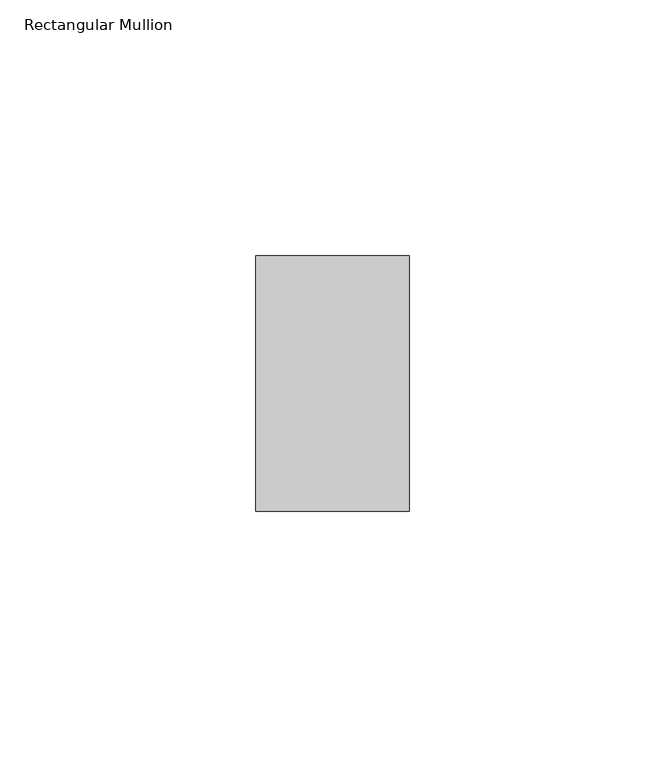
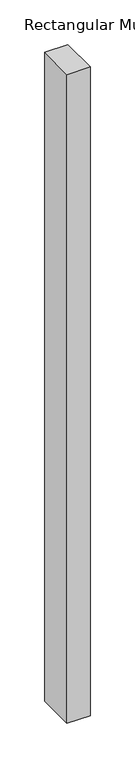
"""IFC4 building model written with IfcOpenShell, lengths in millimetres: member geometry, Rectangular Mullion : ARQ_TV_MULL_50x30mm."""

import ifcopenshell
import ifcopenshell.guid

model = None  # the IFC model being written
_history = None  # IfcOwnerHistory: only IFC2X3 demands one
_inside = {}  # id of a spatial element -> (the spatial element, [elements in it])
_under = {}  # id of a project, library or spatial element -> (it, [spatial elements below it])
_declared = {}  # id of a project -> (the project, [libraries it declares])
_typed = {}  # id of a type object -> (the type object, [elements of that type])
_made_of = {}  # id of a material, layer set ... -> (it, [elements and type objects made of it])


def new_model(schema):
    """Start an empty IFC model of exactly this schema.

    Asked for "IFC4X3", IfcOpenShell would pick the latest addendum, in which some entities
    have other attributes; the version numbers below select the first issue.
    IFC2X3 requires an IfcOwnerHistory on every rooted entity: one is made here for all.
    """
    global model, _history
    if schema == "IFC4X3":
        model = ifcopenshell.file(schema_version=(4, 3, 0, 0))
    else:
        model = ifcopenshell.file(schema=schema)
    _inside.clear()
    _under.clear()
    _declared.clear()
    _typed.clear()
    _made_of.clear()
    _history = None
    if model.schema == "IFC2X3":
        org = make("IfcOrganization", Name="unknown")
        user = make(
            "IfcPersonAndOrganization",
            ThePerson=make("IfcPerson", FamilyName="unknown"),
            TheOrganization=org,
        )
        app = make(
            "IfcApplication",
            ApplicationDeveloper=org,
            Version="unknown",
            ApplicationFullName="unknown",
            ApplicationIdentifier="unknown",
        )
        _history = make(
            "IfcOwnerHistory",
            OwningUser=user,
            OwningApplication=app,
            ChangeAction="ADDED",
            CreationDate=0,
        )
    return model


def make(cls, **values):
    """One entity of the class cls with the attributes given. An attribute that is None is left unset."""
    return model.create_entity(
        cls, **{name: value for name, value in values.items() if value is not None}
    )


def rooted(cls, **values):
    """An entity with a GlobalId (a new one), such as an element, a storey or a relation."""
    return make(cls, GlobalId=ifcopenshell.guid.new(), OwnerHistory=_history, **values)


def si_unit(unit_type, name, prefix=None):
    """IfcSIUnit, for example si_unit("LENGTHUNIT", "METRE", prefix="MILLI")."""
    return make("IfcSIUnit", UnitType=unit_type, Prefix=prefix, Name=name)


def assignment(units):
    """IfcUnitAssignment: the units of a project."""
    return None if units is None else make("IfcUnitAssignment", Units=units)


def point(xyz):
    """IfcCartesianPoint."""
    return None if xyz is None else make("IfcCartesianPoint", Coordinates=xyz)


def direction(xyz):
    """IfcDirection."""
    return None if xyz is None else make("IfcDirection", DirectionRatios=xyz)


def frame(location, z_axis=None, x_axis=None):
    """IfcAxis2Placement3D, a coordinate frame: its origin and axes. An axis left out is left unset."""
    return make(
        "IfcAxis2Placement3D",
        Location=point(location),
        Axis=direction(z_axis),
        RefDirection=direction(x_axis),
    )


def origin():
    """The frame at (0, 0, 0) with its axes left unset."""
    return frame((0.0, 0.0, 0.0))


def place(relative_to, where):
    """IfcLocalPlacement: puts the frame where relative to a parent placement (None: the world)."""
    return make(
        "IfcLocalPlacement", PlacementRelTo=relative_to, RelativePlacement=where
    )


def context(
    kind, dimensions, precision=None, world=None, true_north=None, identifier=None
):
    """IfcGeometricRepresentationContext, for example the 3D "Model" context."""
    return make(
        "IfcGeometricRepresentationContext",
        ContextIdentifier=identifier,
        ContextType=kind,
        CoordinateSpaceDimension=dimensions,
        Precision=precision,
        WorldCoordinateSystem=world,
        TrueNorth=true_north,
    )


def project(units=None, contexts=None):
    """IfcProject with its units and contexts."""
    return rooted(
        "IfcProject",
        Name="project",
        RepresentationContexts=contexts,
        UnitsInContext=assignment(units),
    )


def spatial(cls, under=None, at=None, **own):
    """A site, building, storey or space (cls), placed at a placement, below another one or the project."""
    s = rooted(cls, ObjectPlacement=at, **own)
    if under is not None:
        _under.setdefault(under.id(), (under, []))[1].append(s)
    return s


def polyline(points):
    """IfcPolyline through the points."""
    return make("IfcPolyline", Points=[point(p) for p in points])


def outline(outer, holes=None, kind="AREA"):
    """IfcArbitraryClosedProfileDef: a profile drawn as a closed curve; with holes, ...WithVoids."""
    if holes is None:
        return make("IfcArbitraryClosedProfileDef", ProfileType=kind, OuterCurve=outer)
    return make(
        "IfcArbitraryProfileDefWithVoids",
        ProfileType=kind,
        OuterCurve=outer,
        InnerCurves=holes,
    )


def extrude(swept, where, along, depth):
    """IfcExtrudedAreaSolid: the profile swept, set in the frame where, extruded along a direction by depth."""
    return make(
        "IfcExtrudedAreaSolid",
        SweptArea=swept,
        Position=where,
        ExtrudedDirection=direction(along),
        Depth=depth,
    )


def shape(context_of_items, identifier, shape_type, items):
    """IfcShapeRepresentation: the items that make up one representation, for example the "Body"."""
    return make(
        "IfcShapeRepresentation",
        ContextOfItems=context_of_items,
        RepresentationIdentifier=identifier,
        RepresentationType=shape_type,
        Items=items,
    )


def source(mapping_origin, context_of_items, identifier, shape_type, items):
    """IfcRepresentationMap: a shape defined once, which mapped items show again and again."""
    return make(
        "IfcRepresentationMap",
        MappingOrigin=mapping_origin,
        MappedRepresentation=shape(context_of_items, identifier, shape_type, items),
    )


def transform(
    local_origin,
    x_axis=None,
    y_axis=None,
    z_axis=None,
    scale=None,
    scale2=None,
    scale3=None,
    uniform=True,
):
    """IfcCartesianTransformationOperator3D, or its non-uniform kind. x_axis, y_axis, z_axis: its Axis1, 2, 3."""
    if uniform:
        return make(
            "IfcCartesianTransformationOperator3D",
            Axis1=direction(x_axis),
            Axis2=direction(y_axis),
            LocalOrigin=point(local_origin),
            Scale=scale,
            Axis3=direction(z_axis),
        )
    return make(
        "IfcCartesianTransformationOperator3DnonUniform",
        Axis1=direction(x_axis),
        Axis2=direction(y_axis),
        LocalOrigin=point(local_origin),
        Scale=scale,
        Axis3=direction(z_axis),
        Scale2=scale2,
        Scale3=scale3,
    )


def mapped(mapping_source, mapping_target):
    """IfcMappedItem: shows the shape of a source again, moved by a transform."""
    return make(
        "IfcMappedItem", MappingSource=mapping_source, MappingTarget=mapping_target
    )


def made_of(thing, what):
    """Note that an element or type object is made of a material, layer set ...; save() writes the relation."""
    if what is not None:
        _made_of.setdefault(what.id(), (what, []))[1].append(thing)
    return thing


def element(
    cls,
    number,
    at=None,
    inside=None,
    cuts=None,
    type_object=None,
    material=None,
    context=None,
    identifier="Body",
    shape_type=None,
    held_by="IfcProductDefinitionShape",
    body=None,
    shapes=None,
    **own,
):
    """One element of the class cls, such as IfcWall. Its Tag is "e" and its number.

    at: its placement. inside: the storey or other place that contains it. cuts: it is an
    opening in that element (IfcRelVoidsElement). A single representation is given by context,
    identifier, shape_type and body (its items); several are given by shapes. held_by: the class
    of the entity that holds the representations. save() writes the other relations.
    """
    e = rooted(cls, Tag="e%d" % number, ObjectPlacement=at, **own)
    if body is not None:
        shapes = [shape(context, identifier, shape_type, body)]
    if shapes is not None:
        e.Representation = make(held_by, Representations=shapes)
    if inside is not None:
        _inside.setdefault(inside.id(), (inside, []))[1].append(e)
    if cuts is not None:
        rooted(
            "IfcRelVoidsElement", RelatingBuildingElement=cuts, RelatedOpeningElement=e
        )
    if type_object is not None:
        _typed.setdefault(type_object.id(), (type_object, []))[1].append(e)
    return made_of(e, material)


def aggregate(whole, parts):
    """IfcRelAggregates: a whole, such as a stair, and the parts it consists of."""
    return rooted("IfcRelAggregates", RelatingObject=whole, RelatedObjects=parts)


def save(model, path):
    """Write the relations noted so far, then the file.

    IfcRelAggregates (storeys below a building ...), IfcRelContainedInSpatialStructure (elements
    in a storey), IfcRelDefinesByType, IfcRelAssociatesMaterial and IfcRelDeclares: one each for
    every whole, place, type object, material and project.
    """
    for whole, parts in _under.values():
        aggregate(whole, parts)
    for where, things in _inside.values():
        rooted(
            "IfcRelContainedInSpatialStructure",
            RelatedElements=things,
            RelatingStructure=where,
        )
    for kind, things in _typed.values():
        rooted("IfcRelDefinesByType", RelatedObjects=things, RelatingType=kind)
    for what, things in _made_of.values():
        rooted("IfcRelAssociatesMaterial", RelatedObjects=things, RelatingMaterial=what)
    for by, libraries in _declared.values():
        rooted("IfcRelDeclares", RelatingContext=by, RelatedDefinitions=libraries)
    model.write(path)


def rectangular_mullion_8e38926e(model_context):
    return source(origin(), model_context, "Body", "SweptSolid", [
        extrude(outline(polyline([(15.0, 25.0), (15.0, -25.0), (-15.0, -25.0), (-15.0, 25.0), (15.0, 25.0)])), frame((0.0, 0.0, -886.7270833), z_axis=(0.0, 0.0, 1.0), x_axis=(1.0, 0.0, 0.0)), (0.0, 0.0, 1.0), 886.7270833),
    ])


if __name__ == "__main__":
    model = new_model("IFC4")
    model_context = context("Model", 3, world=origin())
    ifc_project = project(units=[si_unit("LENGTHUNIT", "METRE", prefix="MILLI")], contexts=[model_context])
    site = spatial("IfcSite", under=ifc_project)
    building = spatial("IfcBuilding", under=site)
    placement = place(None, origin())
    rectangular_mullion_shape = rectangular_mullion_8e38926e(model_context)
    element("IfcMember", 1, ObjectType="Rectangular Mullion : ARQ_TV_MULL_50x30mm", at=placement, inside=building, context=model_context, shape_type="MappedRepresentation", body=[
        mapped(rectangular_mullion_shape, transform((0.0, 0.0, 0.0), x_axis=(1.0, 0.0, 0.0), y_axis=(0.0, 1.0, 0.0), z_axis=(0.0, 0.0, 1.0))),
    ])
    save(model, "model.ifc")
